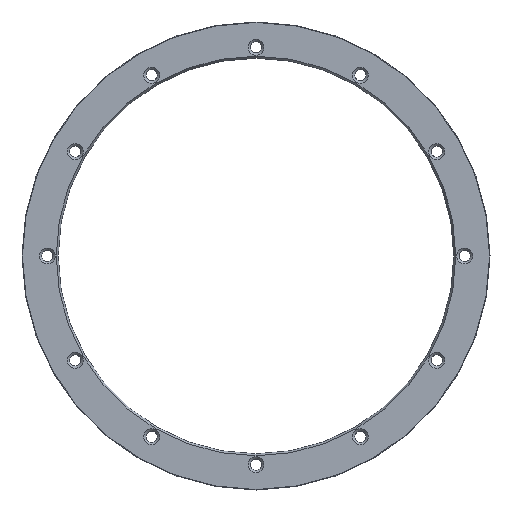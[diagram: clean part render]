
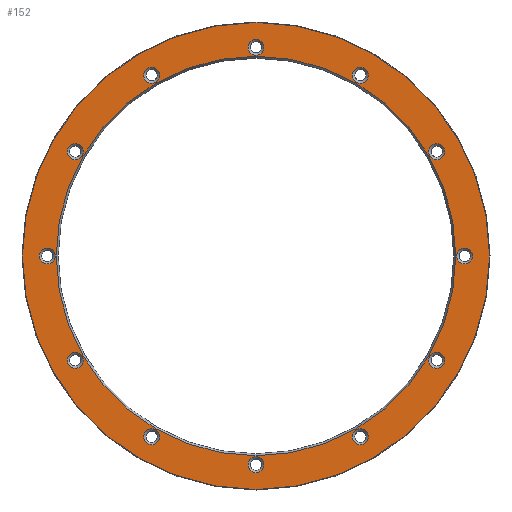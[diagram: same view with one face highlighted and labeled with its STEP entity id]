
A CAD part, front view. The second image highlights one B-rep face of the part: STEP entity #152.
In plain terms, the highlighted planar face has unit normal (0, -1, 0).
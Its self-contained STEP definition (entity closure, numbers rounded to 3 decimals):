
#152=ADVANCED_FACE('',(#548,#550,#552,#554,#556,#558,#560,#562,#564,#566,#568,#570,
#572,#574),#576,.F.);
#548=FACE_BOUND('',#549,.T.);
#549=EDGE_LOOP('',(#915));
#550=FACE_BOUND('',#551,.T.);
#551=EDGE_LOOP('',(#916));
#552=FACE_BOUND('',#553,.T.);
#553=EDGE_LOOP('',(#917));
#554=FACE_BOUND('',#555,.T.);
#555=EDGE_LOOP('',(#918));
#556=FACE_BOUND('',#557,.T.);
#557=EDGE_LOOP('',(#919));
#558=FACE_BOUND('',#559,.T.);
#559=EDGE_LOOP('',(#920));
#560=FACE_BOUND('',#561,.T.);
#561=EDGE_LOOP('',(#921));
#562=FACE_BOUND('',#563,.T.);
#563=EDGE_LOOP('',(#922));
#564=FACE_BOUND('',#565,.T.);
#565=EDGE_LOOP('',(#923));
#566=FACE_BOUND('',#567,.T.);
#567=EDGE_LOOP('',(#924));
#568=FACE_BOUND('',#569,.T.);
#569=EDGE_LOOP('',(#925));
#570=FACE_BOUND('',#571,.T.);
#571=EDGE_LOOP('',(#926));
#572=FACE_BOUND('',#573,.T.);
#573=EDGE_LOOP('',(#927));
#574=FACE_BOUND('',#575,.T.);
#575=EDGE_LOOP('',(#928));
#576=PLANE('',#577);
#577=AXIS2_PLACEMENT_3D('',#578,#579,#580);
#578=CARTESIAN_POINT('',(0.,0.,0.));
#579=DIRECTION('',(0.,1.,0.));
#580=DIRECTION('',(-1.,0.,0.));
#915=ORIENTED_EDGE('',*,*,#1027,.F.);
#916=ORIENTED_EDGE('',*,*,#1028,.T.);
#917=ORIENTED_EDGE('',*,*,#1029,.T.);
#918=ORIENTED_EDGE('',*,*,#1030,.T.);
#919=ORIENTED_EDGE('',*,*,#1031,.T.);
#920=ORIENTED_EDGE('',*,*,#1032,.T.);
#921=ORIENTED_EDGE('',*,*,#1033,.T.);
#922=ORIENTED_EDGE('',*,*,#1034,.T.);
#923=ORIENTED_EDGE('',*,*,#1035,.T.);
#924=ORIENTED_EDGE('',*,*,#1036,.T.);
#925=ORIENTED_EDGE('',*,*,#1037,.T.);
#926=ORIENTED_EDGE('',*,*,#1038,.T.);
#927=ORIENTED_EDGE('',*,*,#1039,.T.);
#928=ORIENTED_EDGE('',*,*,#1040,.T.);
#1027=EDGE_CURVE('',#1105,#1105,#1106,.T.);
#1028=EDGE_CURVE('',#1107,#1107,#1108,.T.);
#1029=EDGE_CURVE('',#1109,#1109,#1110,.F.);
#1030=EDGE_CURVE('',#1111,#1111,#1112,.F.);
#1031=EDGE_CURVE('',#1113,#1113,#1114,.F.);
#1032=EDGE_CURVE('',#1115,#1115,#1116,.F.);
#1033=EDGE_CURVE('',#1117,#1117,#1118,.F.);
#1034=EDGE_CURVE('',#1119,#1119,#1120,.F.);
#1035=EDGE_CURVE('',#1121,#1121,#1122,.F.);
#1036=EDGE_CURVE('',#1123,#1123,#1124,.F.);
#1037=EDGE_CURVE('',#1125,#1125,#1126,.F.);
#1038=EDGE_CURVE('',#1127,#1127,#1128,.F.);
#1039=EDGE_CURVE('',#1129,#1129,#1130,.F.);
#1040=EDGE_CURVE('',#1131,#1131,#1132,.F.);
#1105=VERTEX_POINT('',#1283);
#1106=CIRCLE('',#1284,101.55);
#1107=VERTEX_POINT('',#1288);
#1108=CIRCLE('',#1289,86.866);
#1109=VERTEX_POINT('',#1293);
#1110=CIRCLE('',#1294,3.459);
#1111=VERTEX_POINT('',#1298);
#1112=CIRCLE('',#1299,3.459);
#1113=VERTEX_POINT('',#1303);
#1114=CIRCLE('',#1304,3.459);
#1115=VERTEX_POINT('',#1308);
#1116=CIRCLE('',#1309,3.459);
#1117=VERTEX_POINT('',#1313);
#1118=CIRCLE('',#1314,3.459);
#1119=VERTEX_POINT('',#1318);
#1120=CIRCLE('',#1319,3.459);
#1121=VERTEX_POINT('',#1323);
#1122=CIRCLE('',#1324,3.459);
#1123=VERTEX_POINT('',#1328);
#1124=CIRCLE('',#1329,3.459);
#1125=VERTEX_POINT('',#1333);
#1126=CIRCLE('',#1334,3.459);
#1127=VERTEX_POINT('',#1338);
#1128=CIRCLE('',#1339,3.459);
#1129=VERTEX_POINT('',#1343);
#1130=CIRCLE('',#1344,3.459);
#1131=VERTEX_POINT('',#1348);
#1132=CIRCLE('',#1349,3.459);
#1283=CARTESIAN_POINT('',(-101.55,0.,0.));
#1284=AXIS2_PLACEMENT_3D('',#1285,#1286,#1287);
#1285=CARTESIAN_POINT('',(0.,0.,0.));
#1286=DIRECTION('',(0.,1.,0.));
#1287=DIRECTION('',(-1.,0.,0.));
#1288=CARTESIAN_POINT('',(-86.866,0.,0.));
#1289=AXIS2_PLACEMENT_3D('',#1290,#1291,#1292);
#1290=CARTESIAN_POINT('',(0.,0.,0.));
#1291=DIRECTION('',(0.,1.,0.));
#1292=DIRECTION('',(-1.,0.,0.));
#1293=CARTESIAN_POINT('',(80.321,0.,-42.38));
#1294=AXIS2_PLACEMENT_3D('',#1295,#1296,#1297);
#1295=CARTESIAN_POINT('',(78.592,0.,-45.375));
#1296=DIRECTION('',(0.,-1.,0.));
#1297=DIRECTION('',(0.5,0.,0.866));
#1298=CARTESIAN_POINT('',(76.862,0.,48.37));
#1299=AXIS2_PLACEMENT_3D('',#1300,#1301,#1302);
#1300=CARTESIAN_POINT('',(78.592,0.,45.375));
#1301=DIRECTION('',(0.,-1.,0.));
#1302=DIRECTION('',(-0.5,0.,0.866));
#1303=CARTESIAN_POINT('',(-3.459,0.,90.75));
#1304=AXIS2_PLACEMENT_3D('',#1305,#1306,#1307);
#1305=CARTESIAN_POINT('',(0.,0.,90.75));
#1306=DIRECTION('',(0.,-1.,0.));
#1307=DIRECTION('',(-1.,0.,0.));
#1308=CARTESIAN_POINT('',(-80.321,0.,42.38));
#1309=AXIS2_PLACEMENT_3D('',#1310,#1311,#1312);
#1310=CARTESIAN_POINT('',(-78.592,0.,45.375));
#1311=DIRECTION('',(0.,-1.,0.));
#1312=DIRECTION('',(-0.5,0.,-0.866));
#1313=CARTESIAN_POINT('',(-76.862,0.,-48.37));
#1314=AXIS2_PLACEMENT_3D('',#1315,#1316,#1317);
#1315=CARTESIAN_POINT('',(-78.592,0.,-45.375));
#1316=DIRECTION('',(0.,-1.,0.));
#1317=DIRECTION('',(0.5,0.,-0.866));
#1318=CARTESIAN_POINT('',(3.459,0.,-90.75));
#1319=AXIS2_PLACEMENT_3D('',#1320,#1321,#1322);
#1320=CARTESIAN_POINT('',(0.,0.,-90.75));
#1321=DIRECTION('',(0.,-1.,0.));
#1322=DIRECTION('',(1.,0.,0.));
#1323=CARTESIAN_POINT('',(-42.38,0.,-80.321));
#1324=AXIS2_PLACEMENT_3D('',#1325,#1326,#1327);
#1325=CARTESIAN_POINT('',(-45.375,0.,-78.592));
#1326=DIRECTION('',(0.,-1.,0.));
#1327=DIRECTION('',(0.866,0.,-0.5));
#1328=CARTESIAN_POINT('',(-90.75,0.,-3.459));
#1329=AXIS2_PLACEMENT_3D('',#1330,#1331,#1332);
#1330=CARTESIAN_POINT('',(-90.75,0.,0.));
#1331=DIRECTION('',(0.,-1.,0.));
#1332=DIRECTION('',(0.,0.,-1.));
#1333=CARTESIAN_POINT('',(-48.37,0.,76.862));
#1334=AXIS2_PLACEMENT_3D('',#1335,#1336,#1337);
#1335=CARTESIAN_POINT('',(-45.375,0.,78.592));
#1336=DIRECTION('',(0.,-1.,0.));
#1337=DIRECTION('',(-0.866,0.,-0.5));
#1338=CARTESIAN_POINT('',(42.38,0.,80.321));
#1339=AXIS2_PLACEMENT_3D('',#1340,#1341,#1342);
#1340=CARTESIAN_POINT('',(45.375,0.,78.592));
#1341=DIRECTION('',(0.,-1.,0.));
#1342=DIRECTION('',(-0.866,0.,0.5));
#1343=CARTESIAN_POINT('',(90.75,0.,3.459));
#1344=AXIS2_PLACEMENT_3D('',#1345,#1346,#1347);
#1345=CARTESIAN_POINT('',(90.75,0.,0.));
#1346=DIRECTION('',(0.,-1.,0.));
#1347=DIRECTION('',(0.,0.,1.));
#1348=CARTESIAN_POINT('',(48.37,0.,-76.862));
#1349=AXIS2_PLACEMENT_3D('',#1350,#1351,#1352);
#1350=CARTESIAN_POINT('',(45.375,0.,-78.592));
#1351=DIRECTION('',(0.,-1.,0.));
#1352=DIRECTION('',(0.866,0.,0.5));
